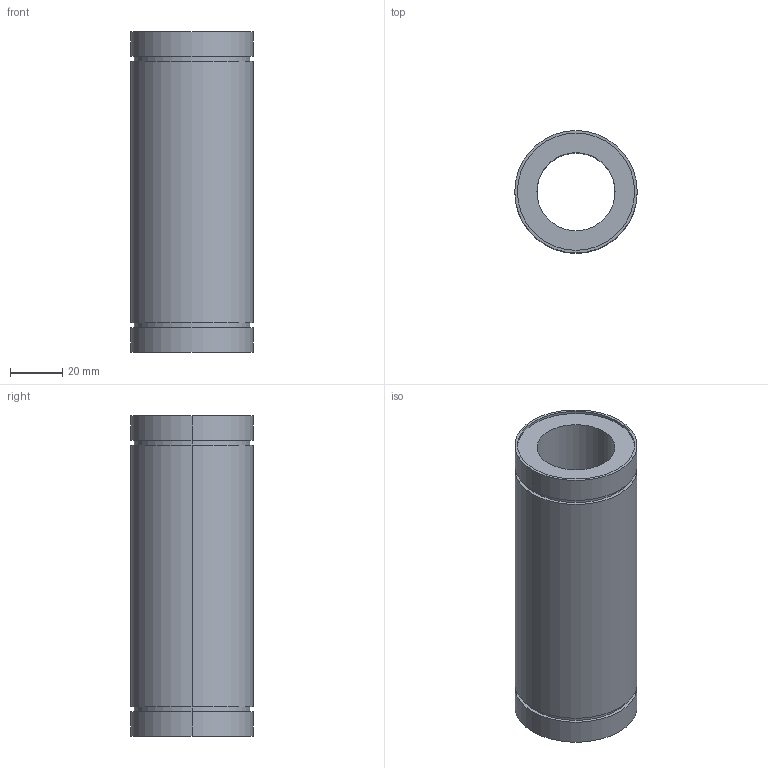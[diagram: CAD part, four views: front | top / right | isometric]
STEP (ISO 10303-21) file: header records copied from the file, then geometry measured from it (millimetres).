
FILE_DESCRIPTION((''),'2;1');
FILE_NAME('C:\Documents and Settings\ｿﾀﾀ蠑ｷ1\ｹﾙﾅﾁ ﾈｭｸ饅\ｺﾎﾇｰﾆﾄﾀﾏ\ﾁｦﾇｰ\LME__LUU\LME30LUU.stp','2005-06-14T18:38:26',('ｿﾀﾀ蠑ｷ1'),(''),'Autodesk Inventor 9','Autodesk Inventor 9','');
FILE_SCHEMA(('AUTOMOTIVE_DESIGN { 1 0 10303 214 1 1 1 1 }'));
Length unit declared in the file: millimetre
Products named in the file (1): LME__
Bounding box: 47 x 47 x 123 mm (x, y, z)
Volume: 124022.7 mm3; surface area: 32594 mm2
Topology: 1 solids, 1 shells, 24 faces, 48 edges, 32 vertices
Faces by surface type: cylinder 16, plane 8
Entity records: 671 total; most frequent: DIRECTION 130, CARTESIAN_POINT 105, ORIENTED_EDGE 96, AXIS2_PLACEMENT_3D 57, EDGE_CURVE 48, VERTEX_POINT 32, CIRCLE 32, EDGE_LOOP 32
